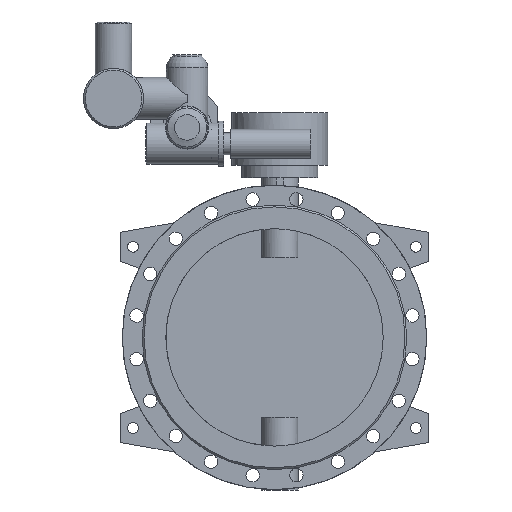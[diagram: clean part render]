
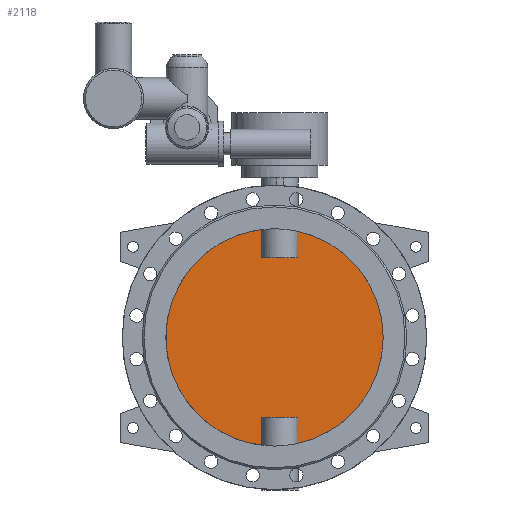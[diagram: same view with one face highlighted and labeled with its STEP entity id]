
A CAD part, front view. The second image highlights one B-rep face of the part: STEP entity #2118.
In plain terms, the highlighted planar face has unit normal (0, -1, 0).
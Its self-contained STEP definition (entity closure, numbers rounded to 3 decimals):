
#2118=ADVANCED_FACE('',(#4245),#4247,.F.);
#4245=FACE_BOUND('',#4246,.T.);
#4246=EDGE_LOOP('',(#5207,#5208,#5209,#5210,#5211,#5212,#5213,#5214));
#4247=PLANE('',#4248);
#4248=AXIS2_PLACEMENT_3D('',#4249,#4250,#4251);
#4249=CARTESIAN_POINT('',(0.,-5.,0.));
#4250=DIRECTION('',(0.,1.,0.));
#4251=DIRECTION('',(1.,0.,0.));
#5207=ORIENTED_EDGE('',*,*,#5689,.T.);
#5208=ORIENTED_EDGE('',*,*,#5694,.T.);
#5209=ORIENTED_EDGE('',*,*,#5695,.T.);
#5210=ORIENTED_EDGE('',*,*,#5696,.T.);
#5211=ORIENTED_EDGE('',*,*,#5691,.T.);
#5212=ORIENTED_EDGE('',*,*,#5697,.T.);
#5213=ORIENTED_EDGE('',*,*,#5698,.T.);
#5214=ORIENTED_EDGE('',*,*,#5699,.T.);
#5689=EDGE_CURVE('',#6535,#6536,#6537,.F.);
#5691=EDGE_CURVE('',#6540,#6538,#6541,.F.);
#5694=EDGE_CURVE('',#6536,#6545,#6546,.T.);
#5695=EDGE_CURVE('',#6545,#6547,#6548,.F.);
#5696=EDGE_CURVE('',#6547,#6540,#6549,.F.);
#5697=EDGE_CURVE('',#6538,#6550,#6551,.F.);
#5698=EDGE_CURVE('',#6550,#6552,#6553,.F.);
#5699=EDGE_CURVE('',#6552,#6535,#6554,.T.);
#6535=VERTEX_POINT('',#10507);
#6536=VERTEX_POINT('',#10508);
#6537=CIRCLE('',#10509,300.);
#6538=VERTEX_POINT('',#10513);
#6540=VERTEX_POINT('',#10600);
#6541=CIRCLE('',#10601,300.);
#6545=VERTEX_POINT('',#10718);
#6546=LINE('',#10719,#10720);
#6547=VERTEX_POINT('',#10722);
#6548=LINE('',#10723,#10724);
#6549=LINE('',#10726,#10727);
#6550=VERTEX_POINT('',#10729);
#6551=LINE('',#10730,#10731);
#6552=VERTEX_POINT('',#10733);
#6553=LINE('',#10734,#10735);
#6554=LINE('',#10737,#10738);
#10507=CARTESIAN_POINT('',(64.749,-5.,-292.929));
#10508=CARTESIAN_POINT('',(64.749,-5.,292.929));
#10509=AXIS2_PLACEMENT_3D('',#10510,#10511,#10512);
#10510=CARTESIAN_POINT('',(0.,-5.,0.));
#10511=DIRECTION('',(0.,1.,0.));
#10512=DIRECTION('',(0.216,0.,0.976));
#10513=CARTESIAN_POINT('',(-34.749,-5.,-297.981));
#10600=CARTESIAN_POINT('',(-34.749,-5.,297.981));
#10601=AXIS2_PLACEMENT_3D('',#10602,#10603,#10604);
#10602=CARTESIAN_POINT('',(0.,-5.,0.));
#10603=DIRECTION('',(0.,1.,0.));
#10604=DIRECTION('',(-0.116,0.,-0.993));
#10718=CARTESIAN_POINT('',(64.749,-5.,220.));
#10719=CARTESIAN_POINT('',(64.749,-5.,292.929));
#10720=VECTOR('',#10721,1.);
#10721=DIRECTION('',(0.,0.,-1.));
#10722=CARTESIAN_POINT('',(-34.749,-5.,220.));
#10723=CARTESIAN_POINT('',(-34.749,-5.,220.));
#10724=VECTOR('',#10725,1.);
#10725=DIRECTION('',(1.,0.,0.));
#10726=CARTESIAN_POINT('',(-34.749,-5.,297.981));
#10727=VECTOR('',#10728,1.);
#10728=DIRECTION('',(0.,0.,-1.));
#10729=CARTESIAN_POINT('',(-34.749,-5.,-220.));
#10730=CARTESIAN_POINT('',(-34.749,-5.,-220.));
#10731=VECTOR('',#10732,1.);
#10732=DIRECTION('',(0.,0.,-1.));
#10733=CARTESIAN_POINT('',(64.749,-5.,-220.));
#10734=CARTESIAN_POINT('',(64.749,-5.,-220.));
#10735=VECTOR('',#10736,1.);
#10736=DIRECTION('',(-1.,0.,0.));
#10737=CARTESIAN_POINT('',(64.749,-5.,-220.));
#10738=VECTOR('',#10739,1.);
#10739=DIRECTION('',(0.,0.,-1.));
